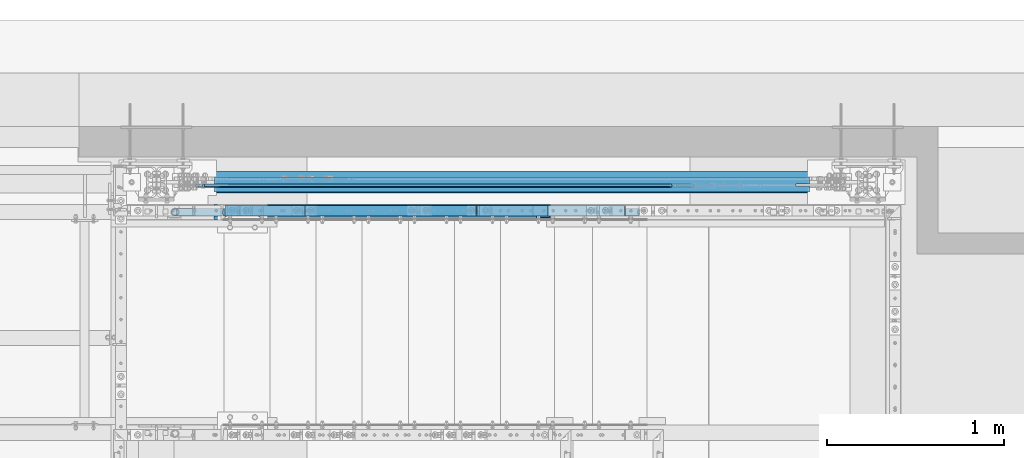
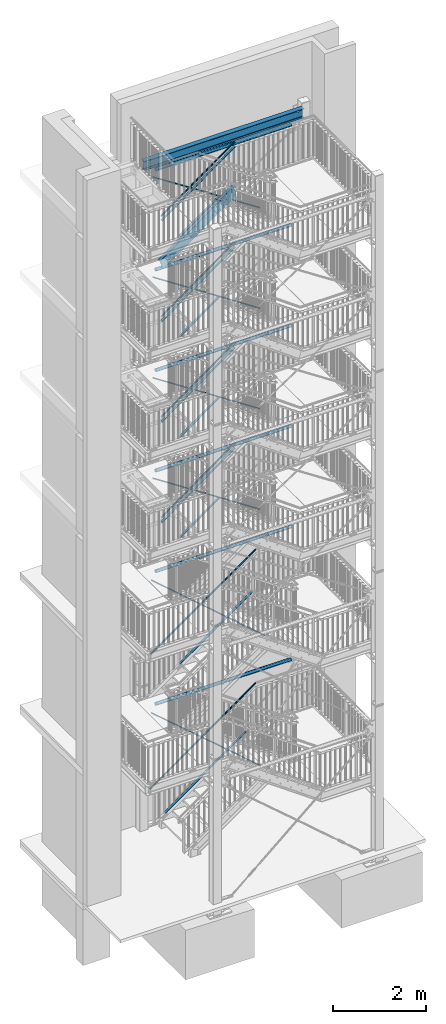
# One storey, part 125 of 821: 25 members, 7 beams, 30 openings.
"""IFC2X3 building model written with IfcOpenShell, lengths in millimetres."""

from ifc_helpers import new_model, entity, si_unit, converted_unit, frame, frame_2d, origin, origin_with_axes, origin_2d, origin_2d_with_axis, place, context, project, spatial, polyline, circle_curve, rectangle, circle, hollow_circle, i_section, u_section, outline, extrude, clip, halfspace, material, element, save


model = new_model("IFC2X3")

# Units and contexts
model_context = context("Model", 3, precision=1e-09, world=origin_with_axes())
ifc_project = project(units=[si_unit("LENGTHUNIT", "METRE", prefix="MILLI"), si_unit("AREAUNIT", "SQUARE_METRE"), si_unit("VOLUMEUNIT", "CUBIC_METRE"), converted_unit("PLANEANGLEUNIT", "DEGREE", entity("IfcPlaneAngleMeasure", 0.01745329), si_unit("PLANEANGLEUNIT", "RADIAN"), dimensions=[0, 0, 0, 0, 0, 0, 0])], contexts=[model_context])

# Site, building, storey
site_placement = place(None, origin_with_axes())
site = spatial("IfcSite", under=ifc_project, at=site_placement, Name="Cnopf'sche Kinderklinik", CompositionType="ELEMENT")
building_placement = place(site_placement, origin_with_axes())
building = spatial("IfcBuilding", under=site, at=building_placement, Name="Struktur 1", CompositionType="ELEMENT")
storey_placement = place(building_placement, origin_with_axes())
storey = spatial("IfcBuildingStorey", under=building, at=storey_placement, Name="Default Storey", CompositionType="ELEMENT", Elevation=0.0)

# Member, openings
ifc_material = material(Name="S235JR")
member_1_placement = place(None, frame((5040.349232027, 7329.036971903, 14964.808313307), z_axis=(0.811618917, 0.0, 0.584187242), x_axis=(0.0, 1.0, 0.0)))
member_1 = element("IfcMember", 1, at=member_1_placement, inside=storey, material=ifc_material, Name="Stringer#1", ObjectType="Stringer#1", context=model_context, shape_type="Clipping", body=[
    clip(clip(extrude(u_section(Depth=240.0, FlangeWidth=85.0, WebThickness=9.5, FlangeThickness=13.0, FilletRadius=13.0, EdgeRadius=6.5, FlangeSlope=4.574, at=frame_2d((20.2, 0.0))), origin(), (0.0, 0.0, 1.0), 2762.119261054), halfspace(frame((-7329.036971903, -12802.606591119, -1664.839205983), z_axis=(0.0, 0.306904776, -0.951740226), x_axis=(-1.0, 0.0, 0.0)), True)), halfspace(frame((-7329.036971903, -12147.607204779, -3696.053161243), z_axis=(0.0, -0.306904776, 0.951740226), x_axis=(1.0, 0.0, 0.0)), True)),
])
opening_1_placement = place(member_1_placement, frame((-22.8, 54.914406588, 644.938721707), z_axis=(1.0, 0.0, 0.0), x_axis=(0.0, -0.584187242, 0.811618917)))
element("IfcOpeningElement", 2, at=opening_1_placement, cuts=member_1, ObjectType="Opening", context=model_context, shape_type="SweptSolid", body=[
    extrude(circle(Radius=7.001, at=origin_2d_with_axis()), origin(), (0.0, 0.0, 1.0), 10.5),
])
opening_2_placement = place(member_1_placement, frame((-22.8, -50.239297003, 2392.767066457), z_axis=(1.0, 0.0, 0.0), x_axis=(0.0, -0.584187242, 0.811618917)))
element("IfcOpeningElement", 3, at=opening_2_placement, cuts=member_1, ObjectType="Opening", context=model_context, shape_type="SweptSolid", body=[
    extrude(circle(Radius=7.001, at=origin_2d_with_axis()), origin(), (0.0, 0.0, 1.0), 10.5),
])
opening_3_placement = place(member_1_placement, frame((-22.8, 54.914406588, 1605.980885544), z_axis=(1.0, 0.0, 0.0), x_axis=(0.0, -0.584187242, 0.811618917)))
element("IfcOpeningElement", 4, at=opening_3_placement, cuts=member_1, ObjectType="Opening", context=model_context, shape_type="SweptSolid", body=[
    extrude(circle(Radius=7.001, at=origin_2d_with_axis()), origin(), (0.0, 0.0, 1.0), 10.5),
])
opening_4_placement = place(member_1_placement, frame((-22.8, -50.239297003, 1111.377514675), z_axis=(1.0, 0.0, 0.0), x_axis=(0.0, -0.584187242, 0.811618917)))
element("IfcOpeningElement", 5, at=opening_4_placement, cuts=member_1, ObjectType="Opening", context=model_context, shape_type="SweptSolid", body=[
    extrude(circle(Radius=7.001, at=origin_2d_with_axis()), origin(), (0.0, 0.0, 1.0), 10.5),
])
opening_5_placement = place(member_1_placement, frame((-22.8, -50.239297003, 1431.72490262), z_axis=(1.0, 0.0, 0.0), x_axis=(0.0, -0.584187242, 0.811618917)))
element("IfcOpeningElement", 6, at=opening_5_placement, cuts=member_1, ObjectType="Opening", context=model_context, shape_type="SweptSolid", body=[
    extrude(circle(Radius=7.001, at=origin_2d_with_axis()), origin(), (0.0, 0.0, 1.0), 10.5),
])
opening_6_placement = place(member_1_placement, frame((-22.8, 54.914406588, 2246.675661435), z_axis=(1.0, 0.0, 0.0), x_axis=(0.0, -0.584187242, 0.811618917)))
element("IfcOpeningElement", 7, at=opening_6_placement, cuts=member_1, ObjectType="Opening", context=model_context, shape_type="SweptSolid", body=[
    extrude(circle(Radius=7.001, at=origin_2d_with_axis()), origin(), (0.0, 0.0, 1.0), 10.5),
])
opening_7_placement = place(member_1_placement, frame((-22.8, -50.239297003, 2072.419678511), z_axis=(1.0, 0.0, 0.0), x_axis=(0.0, -0.584187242, 0.811618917)))
element("IfcOpeningElement", 8, at=opening_7_placement, cuts=member_1, ObjectType="Opening", context=model_context, shape_type="SweptSolid", body=[
    extrude(circle(Radius=7.001, at=origin_2d_with_axis()), origin(), (0.0, 0.0, 1.0), 10.5),
])
opening_8_placement = place(member_1_placement, frame((-22.8, 54.914406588, 965.286109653), z_axis=(1.0, 0.0, 0.0), x_axis=(0.0, -0.584187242, 0.811618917)))
element("IfcOpeningElement", 9, at=opening_8_placement, cuts=member_1, ObjectType="Opening", context=model_context, shape_type="SweptSolid", body=[
    extrude(circle(Radius=7.001, at=origin_2d_with_axis()), origin(), (0.0, 0.0, 1.0), 10.5),
])
opening_9_placement = place(member_1_placement, frame((-22.8, 54.914406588, 1926.32827349), z_axis=(1.0, 0.0, 0.0), x_axis=(0.0, -0.584187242, 0.811618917)))
element("IfcOpeningElement", 10, at=opening_9_placement, cuts=member_1, ObjectType="Opening", context=model_context, shape_type="SweptSolid", body=[
    extrude(circle(Radius=7.001, at=origin_2d_with_axis()), origin(), (0.0, 0.0, 1.0), 10.5),
])
opening_10_placement = place(member_1_placement, frame((-22.8, -50.239297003, 1752.072290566), z_axis=(1.0, 0.0, 0.0), x_axis=(0.0, -0.584187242, 0.811618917)))
element("IfcOpeningElement", 11, at=opening_10_placement, cuts=member_1, ObjectType="Opening", context=model_context, shape_type="SweptSolid", body=[
    extrude(circle(Radius=7.001, at=origin_2d_with_axis()), origin(), (0.0, 0.0, 1.0), 10.5),
])
opening_11_placement = place(member_1_placement, frame((-22.8, 54.914406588, 1285.633497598), z_axis=(1.0, 0.0, 0.0), x_axis=(0.0, -0.584187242, 0.811618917)))
element("IfcOpeningElement", 12, at=opening_11_placement, cuts=member_1, ObjectType="Opening", context=model_context, shape_type="SweptSolid", body=[
    extrude(circle(Radius=7.001, at=origin_2d_with_axis()), origin(), (0.0, 0.0, 1.0), 10.5),
])
opening_12_placement = place(member_1_placement, frame((-22.8, -50.239297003, 791.030126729), z_axis=(1.0, 0.0, 0.0), x_axis=(0.0, -0.584187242, 0.811618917)))
element("IfcOpeningElement", 13, at=opening_12_placement, cuts=member_1, ObjectType="Opening", context=model_context, shape_type="SweptSolid", body=[
    extrude(circle(Radius=7.001, at=origin_2d_with_axis()), origin(), (0.0, 0.0, 1.0), 10.5),
])
opening_13_placement = place(member_1_placement, frame((27.7, 120.5, 940.178602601), z_axis=(0.0, 1.0, 0.0), x_axis=(-1.0, 0.0, 0.0)))
element("IfcOpeningElement", 14, at=opening_13_placement, cuts=member_1, ObjectType="Opening", context=model_context, shape_type="SweptSolid", body=[
    extrude(circle(Radius=7.001, at=frame_2d((0.0, 7.001), x_axis=(1.0, 0.0))), origin(), (0.0, 0.0, -1.0), 14.0),
])
opening_14_placement = place(member_1_placement, frame((27.7, 120.5, 840.178602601), z_axis=(0.0, 1.0, 0.0), x_axis=(-1.0, 0.0, 0.0)))
element("IfcOpeningElement", 15, at=opening_14_placement, cuts=member_1, ObjectType="Opening", context=model_context, shape_type="SweptSolid", body=[
    extrude(circle(Radius=7.001, at=frame_2d((0.0, 7.001), x_axis=(1.0, 0.0))), origin(), (0.0, 0.0, -1.0), 14.0),
])
opening_15_placement = place(member_1_placement, frame((27.7, 120.5, 2153.802536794), z_axis=(0.0, 1.0, 0.0), x_axis=(-1.0, 0.0, 0.0)))
element("IfcOpeningElement", 16, at=opening_15_placement, cuts=member_1, ObjectType="Opening", context=model_context, shape_type="SweptSolid", body=[
    extrude(circle(Radius=7.001, at=frame_2d((0.0, 7.001), x_axis=(1.0, 0.0))), origin(), (0.0, 0.0, -1.0), 14.0),
])
opening_16_placement = place(member_1_placement, frame((27.7, 120.5, 2053.802536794), z_axis=(0.0, 1.0, 0.0), x_axis=(-1.0, 0.0, 0.0)))
element("IfcOpeningElement", 17, at=opening_16_placement, cuts=member_1, ObjectType="Opening", context=model_context, shape_type="SweptSolid", body=[
    extrude(circle(Radius=7.001, at=frame_2d((0.0, 7.001), x_axis=(1.0, 0.0))), origin(), (0.0, 0.0, -1.0), 14.0),
])

# Beam, openings
beam_1_placement = place(None, frame((8843.463402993, 7516.736971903, 17713.999999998), z_axis=(-1.0, 0.0, 0.0), x_axis=(0.0, 1.0, 0.0)))
beam_1 = element("IfcBeam", 18, at=beam_1_placement, inside=storey, material=ifc_material, Name="Girder", ObjectType="Girder", context=model_context, shape_type="SweptSolid", body=[
    extrude(i_section(OverallWidth=120.0, OverallDepth=240.0, WebThickness=6.2, FlangeThickness=9.8, FilletRadius=15.0, at=origin_2d()), origin(), (0.0, 0.0, 1.0), 3963.5),
])
opening_17_placement = place(beam_1_placement, frame((-160.1, -55.000000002, 151.750992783), z_axis=(-1.0, 0.0, 0.0), x_axis=(0.0, -1.0, 0.0)))
element("IfcOpeningElement", 19, at=opening_17_placement, cuts=beam_1, ObjectType="Opening", context=model_context, shape_type="SweptSolid", body=[
    extrude(outline(circle_curve(frame_2d((0.0, -25.001), x_axis=(1.0, 0.0)), 25.001)), origin(), (0.0, 0.0, -1.0), 320.2),
])
opening_18_placement = place(beam_1_placement, frame((-160.1, -55.0, 3861.750998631), z_axis=(-1.0, 0.0, 0.0), x_axis=(0.0, -1.0, 0.0)))
element("IfcOpeningElement", 20, at=opening_18_placement, cuts=beam_1, ObjectType="Opening", context=model_context, shape_type="SweptSolid", body=[
    extrude(outline(circle_curve(frame_2d((0.0, -25.001), x_axis=(1.0, 0.0)), 25.001)), origin(), (0.0, 0.0, -1.0), 320.2),
])

# Members
member_2_placement = place(None, frame((5083.107423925, 7496.736971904, 6788.923578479), z_axis=(0.755906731, 0.0, -0.654679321), x_axis=(0.654679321, 0.0, 0.755906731)))
element("IfcMember", 21, at=member_2_placement, inside=storey, material=ifc_material, Name="-", ObjectType="-", context=model_context, shape_type="SweptSolid", body=[
    extrude(circle(Radius=11.0, at=origin_2d()), origin(), (0.0, 0.0, 1.0), 3695.890496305),
])
member_3_placement = place(None, frame((5121.759351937, 7496.736971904, 9443.034675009), z_axis=(0.83600607, 0.0, -0.548720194), x_axis=(0.548720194, 0.0, 0.83600607)))
element("IfcMember", 22, at=member_3_placement, inside=storey, material=ifc_material, Name="-", ObjectType="-", context=model_context, shape_type="SweptSolid", body=[
    extrude(circle(Radius=11.0, at=origin_2d()), origin(), (0.0, 0.0, 1.0), 3152.49296177),
])
member_4_placement = place(None, frame((5121.910638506, 7496.736971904, 12070.266046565), z_axis=(0.83648421, 0.0, -0.547991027), x_axis=(0.547991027, 0.0, 0.83648421)))
element("IfcMember", 23, at=member_4_placement, inside=storey, material=ifc_material, Name="-", ObjectType="-", context=model_context, shape_type="SweptSolid", body=[
    extrude(circle(Radius=11.0, at=origin_2d()), origin(), (0.0, 0.0, 1.0), 3149.75158325),
])
member_5_placement = place(None, frame((5121.66865522, 7496.736971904, 14704.895983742), z_axis=(0.835719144, 0.0, -0.549157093), x_axis=(0.549157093, 0.0, 0.835719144)))
element("IfcMember", 24, at=member_5_placement, inside=storey, material=ifc_material, Name="-", ObjectType="-", context=model_context, shape_type="SweptSolid", body=[
    extrude(circle(Radius=11.0, at=origin_2d()), origin(), (0.0, 0.0, 1.0), 3154.139325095),
])
member_6_placement = place(None, frame((5122.122703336, 7496.736971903, 17325.590428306), z_axis=(0.837153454, 0.0, -0.546968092), x_axis=(0.546968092, 0.0, 0.837153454)))
element("IfcMember", 25, at=member_6_placement, inside=storey, material=ifc_material, Name="-", ObjectType="-", context=model_context, shape_type="SweptSolid", body=[
    extrude(circle(Radius=11.0, at=origin_2d()), origin(), (0.0, 0.0, 1.0), 3145.919038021),
])

# Beam, openings
beam_2_placement = place(None, frame((5179.963402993, 7501.736971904, 6984.999996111), z_axis=(-1.0, 0.0, 0.0), x_axis=(0.0, 0.0, -1.0)))
beam_2 = element("IfcBeam", 26, at=beam_2_placement, inside=storey, material=ifc_material, Name="Girder", ObjectType="Girder", context=model_context, shape_type="SweptSolid", body=[
    extrude(hollow_circle(Radius=41.25, WallThickness=3.2, at=origin_2d()), origin(), (0.0, 0.0, -1.0), 3363.5),
])
opening_19_placement = place(beam_2_placement, frame((141.35, 0.0, -3363.5), z_axis=(-1.0, 0.0, 0.0), x_axis=(0.0, 0.0, -1.0)))
element("IfcOpeningElement", 27, at=opening_19_placement, cuts=beam_2, ObjectType="Opening", context=model_context, shape_type="SweptSolid", body=[
    extrude(outline(polyline([(-81.001, -5.501), (26.790041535, -5.501), (26.790041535, 5.501), (-81.001, 5.501), (-81.001, -5.501)])), origin(), (0.0, 0.0, 1.0), 282.7),
])
opening_20_placement = place(beam_2_placement, frame((141.35, 5.501, -73.820556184), z_axis=(1.0, 0.0, 0.0), x_axis=(0.0, 0.0, 1.0)))
element("IfcOpeningElement", 28, at=opening_20_placement, cuts=beam_2, ObjectType="Opening", context=model_context, shape_type="SweptSolid", body=[
    extrude(outline(polyline([(0.0, 0.0), (107.791041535, 0.0), (107.791041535, 11.002), (0.0, 11.002), (0.0, 0.0)])), origin(), (0.0, 0.0, -1.0), 282.7),
])

beam_3_placement = place(None, frame((5179.963402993, 7501.736971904, 3511.999996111), z_axis=(-1.0, 0.0, 0.0), x_axis=(0.0, 0.0, -1.0)))
beam_3 = element("IfcBeam", 29, at=beam_3_placement, inside=storey, material=ifc_material, Name="Girder", ObjectType="Girder", context=model_context, shape_type="SweptSolid", body=[
    extrude(hollow_circle(Radius=41.25, WallThickness=3.2, at=origin_2d()), origin(), (0.0, 0.0, -1.0), 3363.5),
])
opening_21_placement = place(beam_3_placement, frame((141.35, 0.0, -3363.5), z_axis=(-1.0, 0.0, 0.0), x_axis=(0.0, 0.0, -1.0)))
element("IfcOpeningElement", 30, at=opening_21_placement, cuts=beam_3, ObjectType="Opening", context=model_context, shape_type="SweptSolid", body=[
    extrude(outline(polyline([(-81.001, -5.501), (26.790041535, -5.501), (26.790041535, 5.501), (-81.001, 5.501), (-81.001, -5.501)])), origin(), (0.0, 0.0, 1.0), 282.7),
])
opening_22_placement = place(beam_3_placement, frame((141.35, 5.501, -73.820556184), z_axis=(1.0, 0.0, 0.0), x_axis=(0.0, 0.0, 1.0)))
element("IfcOpeningElement", 31, at=opening_22_placement, cuts=beam_3, ObjectType="Opening", context=model_context, shape_type="SweptSolid", body=[
    extrude(outline(polyline([(0.0, 0.0), (107.791041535, 0.0), (107.791041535, 11.002), (0.0, 11.002), (0.0, 0.0)])), origin(), (0.0, 0.0, -1.0), 282.7),
])

beam_4_placement = place(None, frame((5179.963402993, 7501.736971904, 9616.999996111), z_axis=(-1.0, 0.0, 0.0), x_axis=(0.0, 0.0, -1.0)))
beam_4 = element("IfcBeam", 32, at=beam_4_placement, inside=storey, material=ifc_material, Name="Girder", ObjectType="Girder", context=model_context, shape_type="SweptSolid", body=[
    extrude(hollow_circle(Radius=41.25, WallThickness=3.2, at=origin_2d()), origin(), (0.0, 0.0, -1.0), 3363.5),
])
opening_23_placement = place(beam_4_placement, frame((141.35, 0.0, -3363.5), z_axis=(-1.0, 0.0, 0.0), x_axis=(0.0, 0.0, -1.0)))
element("IfcOpeningElement", 33, at=opening_23_placement, cuts=beam_4, ObjectType="Opening", context=model_context, shape_type="SweptSolid", body=[
    extrude(outline(polyline([(-81.001, -5.501), (26.790041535, -5.501), (26.790041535, 5.501), (-81.001, 5.501), (-81.001, -5.501)])), origin(), (0.0, 0.0, 1.0), 282.7),
])
opening_24_placement = place(beam_4_placement, frame((141.35, 5.501, -73.820556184), z_axis=(1.0, 0.0, 0.0), x_axis=(0.0, 0.0, 1.0)))
element("IfcOpeningElement", 34, at=opening_24_placement, cuts=beam_4, ObjectType="Opening", context=model_context, shape_type="SweptSolid", body=[
    extrude(outline(polyline([(0.0, 0.0), (107.791041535, 0.0), (107.791041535, 11.002), (0.0, 11.002), (0.0, 0.0)])), origin(), (0.0, 0.0, -1.0), 282.7),
])

beam_5_placement = place(None, frame((5179.963402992, 7501.736971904, 12243.999996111), z_axis=(-1.0, 0.0, 0.0), x_axis=(0.0, 0.0, -1.0)))
beam_5 = element("IfcBeam", 35, at=beam_5_placement, inside=storey, material=ifc_material, Name="Girder", ObjectType="Girder", context=model_context, shape_type="SweptSolid", body=[
    extrude(hollow_circle(Radius=41.25, WallThickness=3.2, at=origin_2d()), origin(), (0.0, 0.0, -1.0), 3363.5),
])
opening_25_placement = place(beam_5_placement, frame((141.35, 0.0, -3363.5), z_axis=(-1.0, 0.0, 0.0), x_axis=(0.0, 0.0, -1.0)))
element("IfcOpeningElement", 36, at=opening_25_placement, cuts=beam_5, ObjectType="Opening", context=model_context, shape_type="SweptSolid", body=[
    extrude(outline(polyline([(-81.001, -5.501), (26.790041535, -5.501), (26.790041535, 5.501), (-81.001, 5.501), (-81.001, -5.501)])), origin(), (0.0, 0.0, 1.0), 282.7),
])
opening_26_placement = place(beam_5_placement, frame((141.35, 5.501, -73.820556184), z_axis=(1.0, 0.0, 0.0), x_axis=(0.0, 0.0, 1.0)))
element("IfcOpeningElement", 37, at=opening_26_placement, cuts=beam_5, ObjectType="Opening", context=model_context, shape_type="SweptSolid", body=[
    extrude(outline(polyline([(0.0, 0.0), (107.791041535, 0.0), (107.791041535, 11.002), (0.0, 11.002), (0.0, 0.0)])), origin(), (0.0, 0.0, -1.0), 282.7),
])

beam_6_placement = place(None, frame((5179.963402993, 7501.736971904, 14878.999996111), z_axis=(-1.0, 0.0, 0.0), x_axis=(0.0, 0.0, -1.0)))
beam_6 = element("IfcBeam", 38, at=beam_6_placement, inside=storey, material=ifc_material, Name="Girder", ObjectType="Girder", context=model_context, shape_type="SweptSolid", body=[
    extrude(hollow_circle(Radius=41.25, WallThickness=3.2, at=origin_2d()), origin(), (0.0, 0.0, -1.0), 3363.5),
])
opening_27_placement = place(beam_6_placement, frame((141.35, 0.0, -3363.5), z_axis=(-1.0, 0.0, 0.0), x_axis=(0.0, 0.0, -1.0)))
element("IfcOpeningElement", 39, at=opening_27_placement, cuts=beam_6, ObjectType="Opening", context=model_context, shape_type="SweptSolid", body=[
    extrude(outline(polyline([(-81.001, -5.501), (26.790041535, -5.501), (26.790041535, 5.501), (-81.001, 5.501), (-81.001, -5.501)])), origin(), (0.0, 0.0, 1.0), 282.7),
])
opening_28_placement = place(beam_6_placement, frame((141.35, 5.501, -73.820556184), z_axis=(1.0, 0.0, 0.0), x_axis=(0.0, 0.0, 1.0)))
element("IfcOpeningElement", 40, at=opening_28_placement, cuts=beam_6, ObjectType="Opening", context=model_context, shape_type="SweptSolid", body=[
    extrude(outline(polyline([(0.0, 0.0), (107.791041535, 0.0), (107.791041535, 11.002), (0.0, 11.002), (0.0, 0.0)])), origin(), (0.0, 0.0, -1.0), 282.7),
])

beam_7_placement = place(None, frame((5179.963402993, 7501.736971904, 17498.999996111), z_axis=(-1.0, 0.0, 0.0), x_axis=(0.0, 0.0, -1.0)))
beam_7 = element("IfcBeam", 41, at=beam_7_placement, inside=storey, material=ifc_material, Name="Girder", ObjectType="Girder", context=model_context, shape_type="SweptSolid", body=[
    extrude(hollow_circle(Radius=41.25, WallThickness=3.2, at=origin_2d()), origin(), (0.0, 0.0, -1.0), 3363.5),
])
opening_29_placement = place(beam_7_placement, frame((141.35, 0.0, -3363.5), z_axis=(-1.0, 0.0, 0.0), x_axis=(0.0, 0.0, -1.0)))
element("IfcOpeningElement", 42, at=opening_29_placement, cuts=beam_7, ObjectType="Opening", context=model_context, shape_type="SweptSolid", body=[
    extrude(outline(polyline([(-81.001, -5.501), (26.790041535, -5.501), (26.790041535, 5.501), (-81.001, 5.501), (-81.001, -5.501)])), origin(), (0.0, 0.0, 1.0), 282.7),
])
opening_30_placement = place(beam_7_placement, frame((141.35, 5.501, -73.820556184), z_axis=(1.0, 0.0, 0.0), x_axis=(0.0, 0.0, 1.0)))
element("IfcOpeningElement", 43, at=opening_30_placement, cuts=beam_7, ObjectType="Opening", context=model_context, shape_type="SweptSolid", body=[
    extrude(outline(polyline([(0.0, 0.0), (107.791041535, 0.0), (107.791041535, 11.002), (0.0, 11.002), (0.0, 0.0)])), origin(), (0.0, 0.0, -1.0), 282.7),
])

# Members
member_7_placement = place(None, frame((5085.030637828, 7496.736971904, 3315.453588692), z_axis=(0.757867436, 0.0, -0.652408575), x_axis=(0.652408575, 0.0, 0.757867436)))
element("IfcMember", 44, at=member_7_placement, inside=storey, material=ifc_material, Name="-", ObjectType="-", context=model_context, shape_type="SweptSolid", body=[
    extrude(circle(Radius=11.0, at=origin_2d()), origin(), (0.0, 0.0, 1.0), 3558.71454228),
])
member_8_placement = place(None, frame((4933.622473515, 7347.936971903, 1439.321699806), z_axis=(-0.814635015, 0.0, -0.579973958), x_axis=(0.579973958, 0.0, -0.814635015)))
element("IfcMember", 45, at=member_8_placement, inside=storey, material=ifc_material, Name="Gel?nder", ObjectType="Gel?nder", context=model_context, shape_type="Clipping", body=[
    clip(clip(extrude(hollow_circle(Radius=21.2, WallThickness=3.2, at=origin_2d()), origin(), (0.0, 0.0, -1.0), 3275.984752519), halfspace(frame((-3324.976639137, 7347.936971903, 1680.625855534), z_axis=(-0.458271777, 0.0, -0.888812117), x_axis=(0.0, -1.0, 0.0)), True)), halfspace(frame((816.100663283, 7347.936971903, -2983.675065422), z_axis=(-0.304437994, 0.0, 0.952532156), x_axis=(0.0, 1.0, 0.0)), True)),
])
member_9_placement = place(None, frame((5332.112742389, 7356.736971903, 702.814518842), z_axis=(-0.814635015, 0.0, -0.579973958), x_axis=(0.579973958, 0.0, -0.814635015)))
element("IfcMember", 46, at=member_9_placement, inside=storey, material=ifc_material, Name="Railing_Kneerail_Stair#1", ObjectType="Railing_Kneerail_Stair#1", context=model_context, shape_type="SweptSolid", body=[
    extrude(rectangle(XDim=10.0, YDim=60.0, at=origin_2d()), origin(), (0.0, 0.0, -1.0), 1218.06374537),
])
member_10_placement = place(None, frame((6345.189860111, 7356.736971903, 1424.068005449), z_axis=(-0.814635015, 0.0, -0.579973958), x_axis=(0.579973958, 0.0, -0.814635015)))
element("IfcMember", 47, at=member_10_placement, inside=storey, material=ifc_material, Name="Railing_Kneerail_Stair#2", ObjectType="Railing_Kneerail_Stair#2", context=model_context, shape_type="SweptSolid", body=[
    extrude(rectangle(XDim=10.0, YDim=60.0, at=origin_2d()), origin(), (0.0, 0.0, -1.0), 1218.06374537),
])
member_11_placement = place(None, frame((4950.988825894, 7347.936971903, 4968.914684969), z_axis=(-0.818063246, 0.0, -0.575128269), x_axis=(0.575128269, 0.0, -0.818063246)))
element("IfcMember", 48, at=member_11_placement, inside=storey, material=ifc_material, Name="Gel?nder", ObjectType="Gel?nder", context=model_context, shape_type="Clipping", body=[
    clip(clip(extrude(hollow_circle(Radius=21.2, WallThickness=3.2, at=origin_2d()), origin(), (0.0, 0.0, -1.0), 3241.129789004), halfspace(frame((3102.216720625, 7347.936971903, 949.912137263), z_axis=(0.301609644, 0.0, -0.953431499), x_axis=(0.0, -1.0, 0.0)), True)), halfspace(frame((4016.163485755, 7347.936971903, -1939.205143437), z_axis=(-0.301609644, 0.0, 0.953431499), x_axis=(0.0, 1.0, 0.0)), True)),
])
member_12_placement = place(None, frame((5697.089187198, 7356.736971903, 4472.906384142), z_axis=(-0.818063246, 0.0, -0.575128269), x_axis=(0.575128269, 0.0, -0.818063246)))
element("IfcMember", 49, at=member_12_placement, inside=storey, material=ifc_material, Name="Railing_Kneerail_Stair#3", ObjectType="Railing_Kneerail_Stair#3", context=model_context, shape_type="SweptSolid", body=[
    extrude(rectangle(XDim=10.0, YDim=60.0, at=origin_2d()), origin(), (0.0, 0.0, -1.0), 1178.697203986),
])
member_13_placement = place(None, frame((6682.089330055, 7356.736971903, 5165.39737516), z_axis=(-0.818063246, 0.0, -0.575128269), x_axis=(0.575128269, 0.0, -0.818063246)))
element("IfcMember", 50, at=member_13_placement, inside=storey, material=ifc_material, Name="Railing_Kneerail_Stair#4", ObjectType="Railing_Kneerail_Stair#4", context=model_context, shape_type="SweptSolid", body=[
    extrude(rectangle(XDim=10.0, YDim=60.0, at=origin_2d()), origin(), (0.0, 0.0, -1.0), 997.321307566),
])
member_14_placement = place(None, frame((5211.177138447, 7347.936971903, 8441.535316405), z_axis=(-0.810350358, 0.0, -0.585945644), x_axis=(0.585945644, 0.0, -0.810350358)))
element("IfcMember", 51, at=member_14_placement, inside=storey, material=ifc_material, Name="Gel?nder", ObjectType="Gel?nder", context=model_context, shape_type="Clipping", body=[
    clip(clip(extrude(hollow_circle(Radius=21.2, WallThickness=3.2, at=origin_2d()), origin(), (0.0, 0.0, -1.0), 2308.967362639), halfspace(frame((6123.567620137, 7347.936971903, 1950.466087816), z_axis=(0.307936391, 0.0, -0.951406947), x_axis=(0.0, -1.0, 0.0)), True)), halfspace(frame((6781.567004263, 7347.936971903, -82.503068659), z_axis=(-0.307936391, 0.0, 0.951406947), x_axis=(0.0, 1.0, 0.0)), True)),
])
member_15_placement = place(None, frame((5697.143274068, 7356.736971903, 7773.13843299), z_axis=(-0.810350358, 0.0, -0.585945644), x_axis=(0.585945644, 0.0, -0.810350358)))
element("IfcMember", 52, at=member_15_placement, inside=storey, material=ifc_material, Name="Railing_Kneerail_Stair#3", ObjectType="Railing_Kneerail_Stair#3", context=model_context, shape_type="SweptSolid", body=[
    extrude(rectangle(XDim=10.0, YDim=60.0, at=origin_2d()), origin(), (0.0, 0.0, -1.0), 1189.782514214),
])
member_16_placement = place(None, frame((5211.164211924, 7347.936971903, 11073.561064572), z_axis=(-0.810878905, 0.0, -0.585213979), x_axis=(0.585213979, 0.0, -0.810878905)))
element("IfcMember", 53, at=member_16_placement, inside=storey, material=ifc_material, Name="Gel?nder", ObjectType="Gel?nder", context=model_context, shape_type="Clipping", body=[
    clip(clip(extrude(hollow_circle(Radius=21.2, WallThickness=3.2, at=origin_2d()), origin(), (0.0, 0.0, -1.0), 2307.494214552), halfspace(frame((8510.835770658, 7347.936971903, 2718.901267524), z_axis=(0.307506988, 0.0, -0.951545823), x_axis=(0.0, -1.0, 0.0)), True)), halfspace(frame((9167.585155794, 7347.936971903, 686.664086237), z_axis=(-0.307506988, 0.0, 0.951545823), x_axis=(0.0, 1.0, 0.0)), True)),
])
member_17_placement = place(None, frame((5697.139615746, 7356.736971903, 10404.451050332), z_axis=(-0.810878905, 0.0, -0.585213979), x_axis=(0.585213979, 0.0, -0.810878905)))
element("IfcMember", 54, at=member_17_placement, inside=storey, material=ifc_material, Name="Railing_Kneerail_Stair#3", ObjectType="Railing_Kneerail_Stair#3", context=model_context, shape_type="SweptSolid", body=[
    extrude(rectangle(XDim=10.0, YDim=60.0, at=origin_2d()), origin(), (0.0, 0.0, -1.0), 1189.01601348),
])
member_18_placement = place(None, frame((5211.184895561, 7347.936971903, 13700.519885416), z_axis=(-0.810033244, 0.0, -0.586383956), x_axis=(0.586383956, 0.0, -0.810033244)))
element("IfcMember", 55, at=member_18_placement, inside=storey, material=ifc_material, Name="Gel?nder", ObjectType="Gel?nder", context=model_context, shape_type="Clipping", body=[
    clip(clip(extrude(hollow_circle(Radius=21.2, WallThickness=3.2, at=origin_2d()), origin(), (0.0, 0.0, -1.0), 2309.852130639), halfspace(frame((10880.560986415, 7347.936971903, 3493.383681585), z_axis=(0.308193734, 0.0, -0.951323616), x_axis=(0.0, -1.0, 0.0)), True)), halfspace(frame((11539.310370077, 7347.936971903, 1459.97490131), z_axis=(-0.308193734, 0.0, 0.951323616), x_axis=(0.0, 1.0, 0.0)), True)),
])
member_19_placement = place(None, frame((5697.145465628, 7356.736971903, 13032.550896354), z_axis=(-0.810033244, 0.0, -0.586383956), x_axis=(0.586383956, 0.0, -0.810033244)))
element("IfcMember", 56, at=member_19_placement, inside=storey, material=ifc_material, Name="Railing_Kneerail_Stair#3", ObjectType="Railing_Kneerail_Stair#3", context=model_context, shape_type="SweptSolid", body=[
    extrude(rectangle(XDim=10.0, YDim=60.0, at=origin_2d()), origin(), (0.0, 0.0, -1.0), 1190.242882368),
])
member_20_placement = place(None, frame((5211.146119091, 7347.936971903, 16335.597174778), z_axis=(-0.811618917, 0.0, -0.584187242), x_axis=(0.584187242, 0.0, -0.811618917)))
element("IfcMember", 57, at=member_20_placement, inside=storey, material=ifc_material, Name="Gel?nder", ObjectType="Gel?nder", context=model_context, shape_type="Clipping", body=[
    clip(clip(extrude(hollow_circle(Radius=21.2, WallThickness=3.2, at=origin_2d()), origin(), (0.0, 0.0, -1.0), 2305.434890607), halfspace(frame((13283.997609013, 7347.936971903, 4252.147668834), z_axis=(0.306904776, 0.0, -0.951740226), x_axis=(0.0, -1.0, 0.0)), True)), halfspace(frame((13938.996995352, 7347.936971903, 2220.933713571), z_axis=(-0.306904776, 0.0, 0.951740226), x_axis=(0.0, 1.0, 0.0)), True)),
])
member_21_placement = place(None, frame((5697.134482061, 7356.736971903, 15665.488832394), z_axis=(-0.811618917, 0.0, -0.584187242), x_axis=(0.584187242, 0.0, -0.811618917)))
element("IfcMember", 58, at=member_21_placement, inside=storey, material=ifc_material, Name="Railing_Kneerail_Stair#3", ObjectType="Railing_Kneerail_Stair#3", context=model_context, shape_type="SweptSolid", body=[
    extrude(rectangle(XDim=10.0, YDim=60.0, at=origin_2d()), origin(), (0.0, 0.0, -1.0), 1187.944551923),
])
member_22_placement = place(None, frame((5246.470638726, 7356.736971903, 16228.741905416), z_axis=(-0.811618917, 0.0, -0.584187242), x_axis=(0.584187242, 0.0, -0.811618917)))
element("IfcMember", 59, at=member_22_placement, inside=storey, material=ifc_material, Name="Railing_Kneerail_Stair#1002", ObjectType="Railing_Kneerail_Stair#1002", context=model_context, shape_type="SweptSolid", body=[
    extrude(rectangle(XDim=10.0, YDim=60.0, at=origin_2d()), origin(), (0.0, 0.0, -1.0), 2239.20704706),
])
member_23_placement = place(None, frame((5246.513340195, 7356.736971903, 13593.749833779), z_axis=(-0.810033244, 0.0, -0.586383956), x_axis=(0.586383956, 0.0, -0.810033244)))
element("IfcMember", 60, at=member_23_placement, inside=storey, material=ifc_material, Name="Railing_Kneerail_Stair#1002", ObjectType="Railing_Kneerail_Stair#1002", context=model_context, shape_type="SweptSolid", body=[
    extrude(rectangle(XDim=10.0, YDim=60.0, at=origin_2d()), origin(), (0.0, 0.0, -1.0), 2243.581735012),
])
member_24_placement = place(None, frame((5246.490586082, 7356.736971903, 10966.745605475), z_axis=(-0.810878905, 0.0, -0.585213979), x_axis=(0.585213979, 0.0, -0.810878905)))
element("IfcMember", 61, at=member_24_placement, inside=storey, material=ifc_material, Name="Railing_Kneerail_Stair#1002", ObjectType="Railing_Kneerail_Stair#1002", context=model_context, shape_type="SweptSolid", body=[
    extrude(rectangle(XDim=10.0, YDim=60.0, at=origin_2d()), origin(), (0.0, 0.0, -1.0), 2241.246511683),
])
member_25_placement = place(None, frame((5246.504812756, 7356.736971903, 8334.74824821), z_axis=(-0.810350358, 0.0, -0.585945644), x_axis=(0.585945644, 0.0, -0.810350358)))
element("IfcMember", 62, at=member_25_placement, inside=storey, material=ifc_material, Name="Railing_Kneerail_Stair#1002", ObjectType="Railing_Kneerail_Stair#1002", context=model_context, shape_type="SweptSolid", body=[
    extrude(rectangle(XDim=10.0, YDim=60.0, at=origin_2d()), origin(), (0.0, 0.0, -1.0), 2242.705476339),
])

save(model, "model.ifc")
